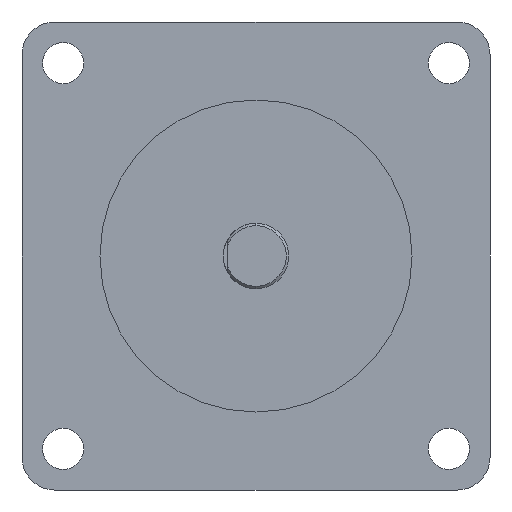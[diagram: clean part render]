
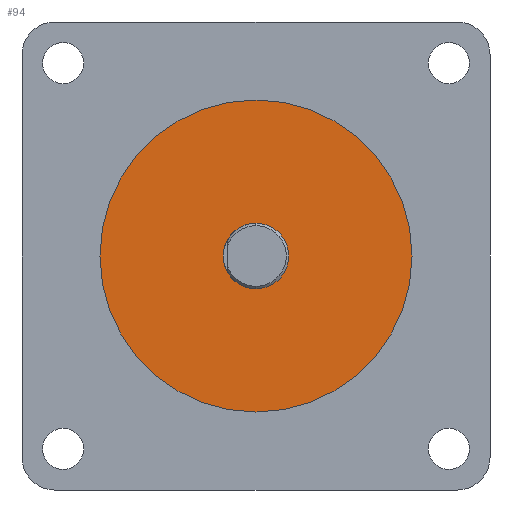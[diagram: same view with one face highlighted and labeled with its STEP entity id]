
A CAD part, left-side view. The second image highlights one B-rep face of the part: STEP entity #94.
In plain terms, the highlighted planar face has unit normal (-1, 0, 0).
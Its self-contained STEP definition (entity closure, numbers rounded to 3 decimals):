
#94 = ADVANCED_FACE ( 'NONE', ( #519, #652 ), #978, .T. ) ;
#233 = AXIS2_PLACEMENT_3D ( 'NONE', #2468, #2114, #1766 ) ;
#253 = DIRECTION ( 'NONE',  ( -1., 0., 0. ) ) ;
#351 = EDGE_CURVE ( 'NONE', #1240, #2237, #2389, .T. ) ;
#420 = ORIENTED_EDGE ( 'NONE', *, *, #351, .F. ) ;
#519 = FACE_OUTER_BOUND ( 'NONE', #3017, .T. ) ;
#547 = CIRCLE ( 'NONE', #1809, 19.05 ) ;
#551 = ORIENTED_EDGE ( 'NONE', *, *, #2894, .T. ) ;
#618 = CARTESIAN_POINT ( 'NONE',  ( -1.5, 0., 0. ) ) ;
#652 = FACE_BOUND ( 'NONE', #2747, .T. ) ;
#801 = DIRECTION ( 'NONE',  ( 0., 0., 1. ) ) ;
#923 = CARTESIAN_POINT ( 'NONE',  ( -1.5, 0., 4. ) ) ;
#978 = PLANE ( 'NONE',  #3003 ) ;
#1036 = DIRECTION ( 'NONE',  ( 0., 0., 1. ) ) ;
#1156 = CIRCLE ( 'NONE', #2949, 4. ) ;
#1170 = DIRECTION ( 'NONE',  ( -1., 0., 0. ) ) ;
#1240 = VERTEX_POINT ( 'NONE', #923 ) ;
#1285 = CARTESIAN_POINT ( 'NONE',  ( -1.5, 0., -19.05 ) ) ;
#1305 = CARTESIAN_POINT ( 'NONE',  ( -1.5, 0., -4. ) ) ;
#1340 = VERTEX_POINT ( 'NONE', #1285 ) ;
#1396 = DIRECTION ( 'NONE',  ( -1., 0., 0. ) ) ;
#1473 = AXIS2_PLACEMENT_3D ( 'NONE', #2979, #2623, #2277 ) ;
#1553 = EDGE_CURVE ( 'NONE', #3256, #1340, #547, .T. ) ;
#1637 = ORIENTED_EDGE ( 'NONE', *, *, #2414, .F. ) ;
#1746 = CARTESIAN_POINT ( 'NONE',  ( -1.5, 0., 0. ) ) ;
#1766 = DIRECTION ( 'NONE',  ( 0., 0., 1. ) ) ;
#1809 = AXIS2_PLACEMENT_3D ( 'NONE', #1865, #1170, #801 ) ;
#1865 = CARTESIAN_POINT ( 'NONE',  ( -1.5, 0., 0. ) ) ;
#2114 = DIRECTION ( 'NONE',  ( -1., 0., 0. ) ) ;
#2237 = VERTEX_POINT ( 'NONE', #1305 ) ;
#2277 = DIRECTION ( 'NONE',  ( 0., 0., 1. ) ) ;
#2389 = CIRCLE ( 'NONE', #233, 4. ) ;
#2414 = EDGE_CURVE ( 'NONE', #2237, #1240, #1156, .T. ) ;
#2468 = CARTESIAN_POINT ( 'NONE',  ( -1.5, 0., 0. ) ) ;
#2623 = DIRECTION ( 'NONE',  ( -1., 0., 0. ) ) ;
#2712 = CARTESIAN_POINT ( 'NONE',  ( -1.5, 0., 19.05 ) ) ;
#2747 = EDGE_LOOP ( 'NONE', ( #1637, #420 ) ) ;
#2860 = ORIENTED_EDGE ( 'NONE', *, *, #1553, .T. ) ;
#2894 = EDGE_CURVE ( 'NONE', #1340, #3256, #3009, .T. ) ;
#2949 = AXIS2_PLACEMENT_3D ( 'NONE', #1746, #1396, #1036 ) ;
#2979 = CARTESIAN_POINT ( 'NONE',  ( -1.5, 0., 0. ) ) ;
#3003 = AXIS2_PLACEMENT_3D ( 'NONE', #618, #253, #3377 ) ;
#3009 = CIRCLE ( 'NONE', #1473, 19.05 ) ;
#3017 = EDGE_LOOP ( 'NONE', ( #551, #2860 ) ) ;
#3256 = VERTEX_POINT ( 'NONE', #2712 ) ;
#3377 = DIRECTION ( 'NONE',  ( 0., 0., 1. ) ) ;
